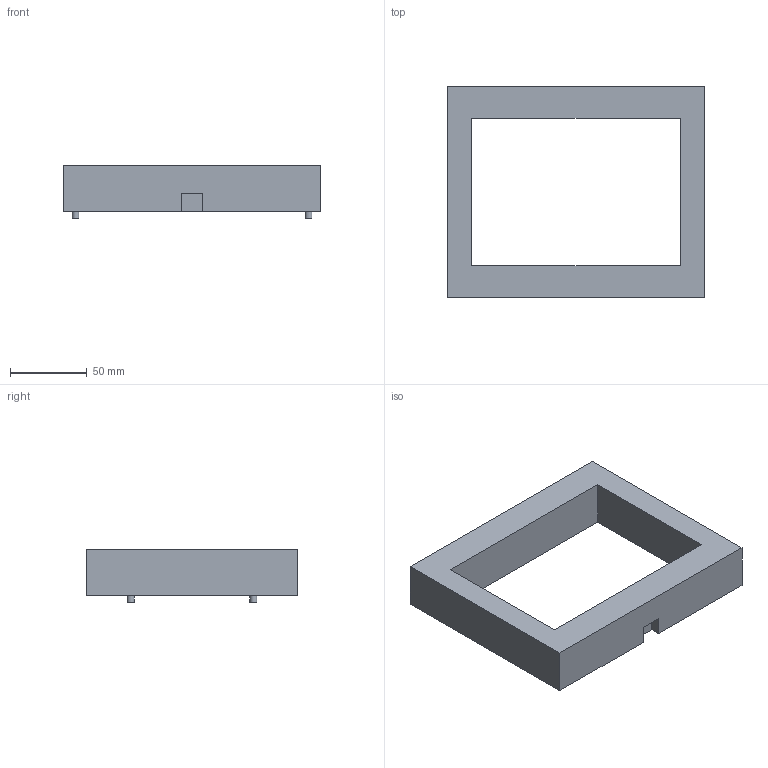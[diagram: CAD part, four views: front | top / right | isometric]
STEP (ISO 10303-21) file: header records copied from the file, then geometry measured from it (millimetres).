
FILE_DESCRIPTION(('Open CASCADE Model'),'2;1');
FILE_NAME('Open CASCADE Shape Model','2026-07-23T15:39:55',('Author'),( 'Open CASCADE'),'Open CASCADE STEP processor 7.9','build123d', 'Unknown');
FILE_SCHEMA(('AUTOMOTIVE_DESIGN { 1 0 10303 214 1 1 1 1 }'));
Length unit declared in the file: millimetre
Products named in the file (1): COMPOUND
Bounding box: 168 x 138 x 34 mm (x, y, z)
Volume: 303062.8 mm3; surface area: 53002.5 mm2
Topology: 1 solids, 1 shells, 553 faces, 1509 edges, 1006 vertices
Faces by surface type: extrusion 335, plane 214, cylinder 4
Full cylindrical faces by diameter (mm): 4.4 x4
Entity records: 42404 total; most frequent: CARTESIAN_POINT 15735, DIRECTION 3315, ORIENTED_EDGE 3018, PCURVE 3018, DEFINITIONAL_REPRESENTATION 3018, VECTOR 2853, LINE 2518, B_SPLINE_CURVE_WITH_KNOTS 2328
